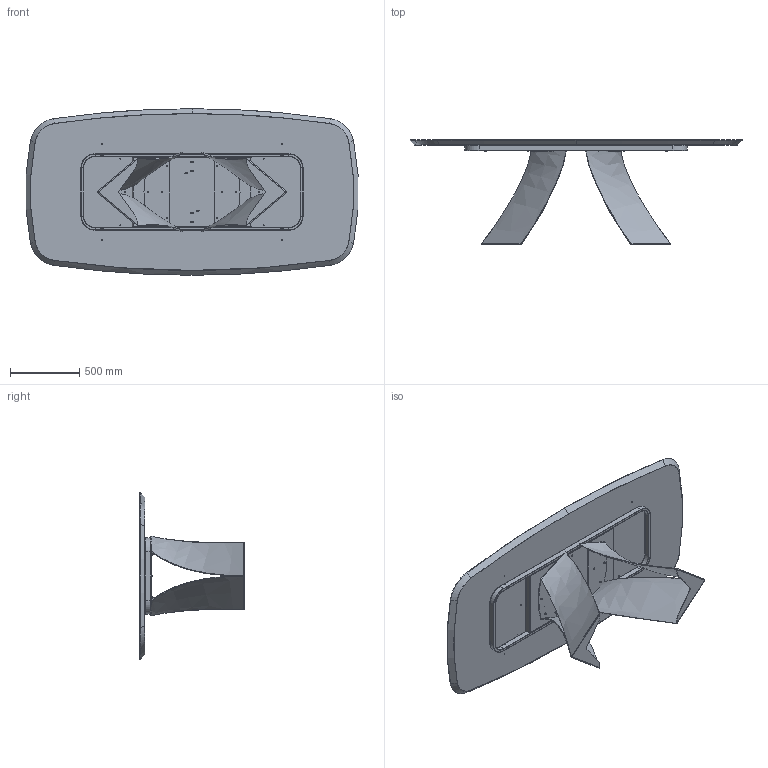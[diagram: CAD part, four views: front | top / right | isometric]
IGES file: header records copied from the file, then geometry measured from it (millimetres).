
Start section: SolidWorks IGES file using analytic representation for surfaces
Global section: file name: Y:\eforma\TECNICO\SOLIDWORKS\E-FORMA\1-TAVOLI\TWIST\02 parts\TW43W.IGS; native system: SolidWorks 2022; preprocessor: SolidWorks 2022; author: eforma.tech; date: 240807.143218; units: millimetre
Bounding box: 2391.9 x 753.37 x 1200 mm (x, y, z)
Volume: 107349274.5 mm3; surface area: 9833047.1 mm2
Topology: 52 solids, 52 shells, 1303 faces, 3052 edges, 1822 vertices
Faces by surface type: revolution 773, plane 464, bspline 66
